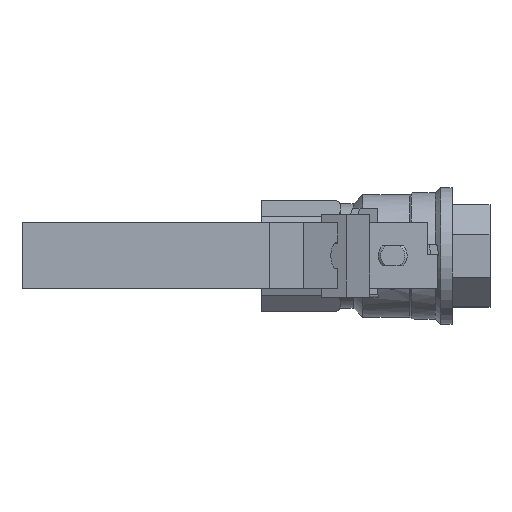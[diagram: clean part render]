
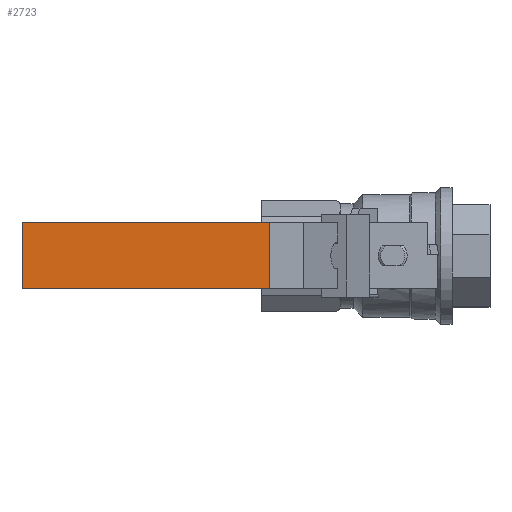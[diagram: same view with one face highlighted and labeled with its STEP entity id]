
A CAD part, top view. The second image highlights one B-rep face of the part: STEP entity #2723.
In plain terms, the highlighted planar face has unit normal (0, 0, 1).
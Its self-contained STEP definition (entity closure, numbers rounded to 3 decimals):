
#1969 = PLANE('',#1970);
#1970 = AXIS2_PLACEMENT_3D('',#1971,#1972,#1973);
#1971 = CARTESIAN_POINT('',(0.562,-1.838,0.307
    ));
#1972 = DIRECTION('',(0.,-1.,0.));
#1973 = DIRECTION('',(0.,0.,1.));
#2023 = PLANE('',#2024);
#2024 = AXIS2_PLACEMENT_3D('',#2025,#2026,#2027);
#2025 = CARTESIAN_POINT('',(0.562,-2.623,0.307
    ));
#2026 = DIRECTION('',(0.,-1.,0.));
#2027 = DIRECTION('',(0.,0.,1.));
#2376 = PLANE('',#2377);
#2377 = AXIS2_PLACEMENT_3D('',#2378,#2379,#2380);
#2378 = CARTESIAN_POINT('',(-0.304,-1.838,1.151));
#2379 = DIRECTION('',(1.,0.,0.));
#2380 = DIRECTION('',(0.,0.,1.));
#2396 = VERTEX_POINT('',#2397);
#2397 = CARTESIAN_POINT('',(-0.304,-1.838,1.258));
#2418 = EDGE_CURVE('',#2396,#2419,#2421,.T.);
#2419 = VERTEX_POINT('',#2420);
#2420 = CARTESIAN_POINT('',(-0.304,-2.623,1.258));
#2421 = SURFACE_CURVE('',#2422,(#2426,#2433),.PCURVE_S1.);
#2422 = LINE('',#2423,#2424);
#2423 = CARTESIAN_POINT('',(-0.304,-1.838,1.258));
#2424 = VECTOR('',#2425,1.);
#2425 = DIRECTION('',(0.,-1.,0.));
#2426 = PCURVE('',#2376,#2427);
#2427 = DEFINITIONAL_REPRESENTATION('',(#2428),#2432);
#2428 = LINE('',#2429,#2430);
#2429 = CARTESIAN_POINT('',(0.108,0.));
#2430 = VECTOR('',#2431,1.);
#2431 = DIRECTION('',(0.,1.));
#2432 = ( GEOMETRIC_REPRESENTATION_CONTEXT(2) 
PARAMETRIC_REPRESENTATION_CONTEXT() REPRESENTATION_CONTEXT('2D SPACE',''
  ) );
#2433 = PCURVE('',#2434,#2439);
#2434 = PLANE('',#2435);
#2435 = AXIS2_PLACEMENT_3D('',#2436,#2437,#2438);
#2436 = CARTESIAN_POINT('',(-1.772,-1.838,1.258));
#2437 = DIRECTION('',(0.,0.,1.));
#2438 = DIRECTION('',(-1.,0.,0.));
#2439 = DEFINITIONAL_REPRESENTATION('',(#2440),#2444);
#2440 = LINE('',#2441,#2442);
#2441 = CARTESIAN_POINT('',(-1.468,0.));
#2442 = VECTOR('',#2443,1.);
#2443 = DIRECTION('',(0.,1.));
#2444 = ( GEOMETRIC_REPRESENTATION_CONTEXT(2) 
PARAMETRIC_REPRESENTATION_CONTEXT() REPRESENTATION_CONTEXT('2D SPACE',''
  ) );
#2619 = PLANE('',#2620);
#2620 = AXIS2_PLACEMENT_3D('',#2621,#2622,#2623);
#2621 = CARTESIAN_POINT('',(-3.24,-1.838,1.151));
#2622 = DIRECTION('',(-1.,0.,0.));
#2623 = DIRECTION('',(0.,0.,-1.));
#2657 = VERTEX_POINT('',#2658);
#2658 = CARTESIAN_POINT('',(-3.24,-2.623,1.258));
#2679 = EDGE_CURVE('',#2680,#2657,#2682,.T.);
#2680 = VERTEX_POINT('',#2681);
#2681 = CARTESIAN_POINT('',(-3.24,-1.838,1.258));
#2682 = SURFACE_CURVE('',#2683,(#2687,#2694),.PCURVE_S1.);
#2683 = LINE('',#2684,#2685);
#2684 = CARTESIAN_POINT('',(-3.24,-1.838,1.258));
#2685 = VECTOR('',#2686,1.);
#2686 = DIRECTION('',(0.,-1.,0.));
#2687 = PCURVE('',#2619,#2688);
#2688 = DEFINITIONAL_REPRESENTATION('',(#2689),#2693);
#2689 = LINE('',#2690,#2691);
#2690 = CARTESIAN_POINT('',(-0.108,-0.));
#2691 = VECTOR('',#2692,1.);
#2692 = DIRECTION('',(0.,1.));
#2693 = ( GEOMETRIC_REPRESENTATION_CONTEXT(2) 
PARAMETRIC_REPRESENTATION_CONTEXT() REPRESENTATION_CONTEXT('2D SPACE',''
  ) );
#2694 = PCURVE('',#2434,#2695);
#2695 = DEFINITIONAL_REPRESENTATION('',(#2696),#2700);
#2696 = LINE('',#2697,#2698);
#2697 = CARTESIAN_POINT('',(1.468,0.));
#2698 = VECTOR('',#2699,1.);
#2699 = DIRECTION('',(0.,1.));
#2700 = ( GEOMETRIC_REPRESENTATION_CONTEXT(2) 
PARAMETRIC_REPRESENTATION_CONTEXT() REPRESENTATION_CONTEXT('2D SPACE',''
  ) );
#2723 = ADVANCED_FACE('',(#2724),#2434,.T.);
#2724 = FACE_BOUND('',#2725,.T.);
#2725 = EDGE_LOOP('',(#2726,#2747,#2748,#2769));
#2726 = ORIENTED_EDGE('',*,*,#2727,.T.);
#2727 = EDGE_CURVE('',#2657,#2419,#2728,.T.);
#2728 = SURFACE_CURVE('',#2729,(#2733,#2740),.PCURVE_S1.);
#2729 = LINE('',#2730,#2731);
#2730 = CARTESIAN_POINT('',(-3.24,-2.623,1.258));
#2731 = VECTOR('',#2732,1.);
#2732 = DIRECTION('',(1.,0.,0.));
#2733 = PCURVE('',#2434,#2734);
#2734 = DEFINITIONAL_REPRESENTATION('',(#2735),#2739);
#2735 = LINE('',#2736,#2737);
#2736 = CARTESIAN_POINT('',(1.468,0.785));
#2737 = VECTOR('',#2738,1.);
#2738 = DIRECTION('',(-1.,0.));
#2739 = ( GEOMETRIC_REPRESENTATION_CONTEXT(2) 
PARAMETRIC_REPRESENTATION_CONTEXT() REPRESENTATION_CONTEXT('2D SPACE',''
  ) );
#2740 = PCURVE('',#2023,#2741);
#2741 = DEFINITIONAL_REPRESENTATION('',(#2742),#2746);
#2742 = LINE('',#2743,#2744);
#2743 = CARTESIAN_POINT('',(0.951,3.802));
#2744 = VECTOR('',#2745,1.);
#2745 = DIRECTION('',(0.,-1.));
#2746 = ( GEOMETRIC_REPRESENTATION_CONTEXT(2) 
PARAMETRIC_REPRESENTATION_CONTEXT() REPRESENTATION_CONTEXT('2D SPACE',''
  ) );
#2747 = ORIENTED_EDGE('',*,*,#2418,.F.);
#2748 = ORIENTED_EDGE('',*,*,#2749,.F.);
#2749 = EDGE_CURVE('',#2680,#2396,#2750,.T.);
#2750 = SURFACE_CURVE('',#2751,(#2755,#2762),.PCURVE_S1.);
#2751 = LINE('',#2752,#2753);
#2752 = CARTESIAN_POINT('',(-3.24,-1.838,1.258));
#2753 = VECTOR('',#2754,1.);
#2754 = DIRECTION('',(1.,0.,0.));
#2755 = PCURVE('',#2434,#2756);
#2756 = DEFINITIONAL_REPRESENTATION('',(#2757),#2761);
#2757 = LINE('',#2758,#2759);
#2758 = CARTESIAN_POINT('',(1.468,0.));
#2759 = VECTOR('',#2760,1.);
#2760 = DIRECTION('',(-1.,0.));
#2761 = ( GEOMETRIC_REPRESENTATION_CONTEXT(2) 
PARAMETRIC_REPRESENTATION_CONTEXT() REPRESENTATION_CONTEXT('2D SPACE',''
  ) );
#2762 = PCURVE('',#1969,#2763);
#2763 = DEFINITIONAL_REPRESENTATION('',(#2764),#2768);
#2764 = LINE('',#2765,#2766);
#2765 = CARTESIAN_POINT('',(0.951,3.802));
#2766 = VECTOR('',#2767,1.);
#2767 = DIRECTION('',(0.,-1.));
#2768 = ( GEOMETRIC_REPRESENTATION_CONTEXT(2) 
PARAMETRIC_REPRESENTATION_CONTEXT() REPRESENTATION_CONTEXT('2D SPACE',''
  ) );
#2769 = ORIENTED_EDGE('',*,*,#2679,.T.);
